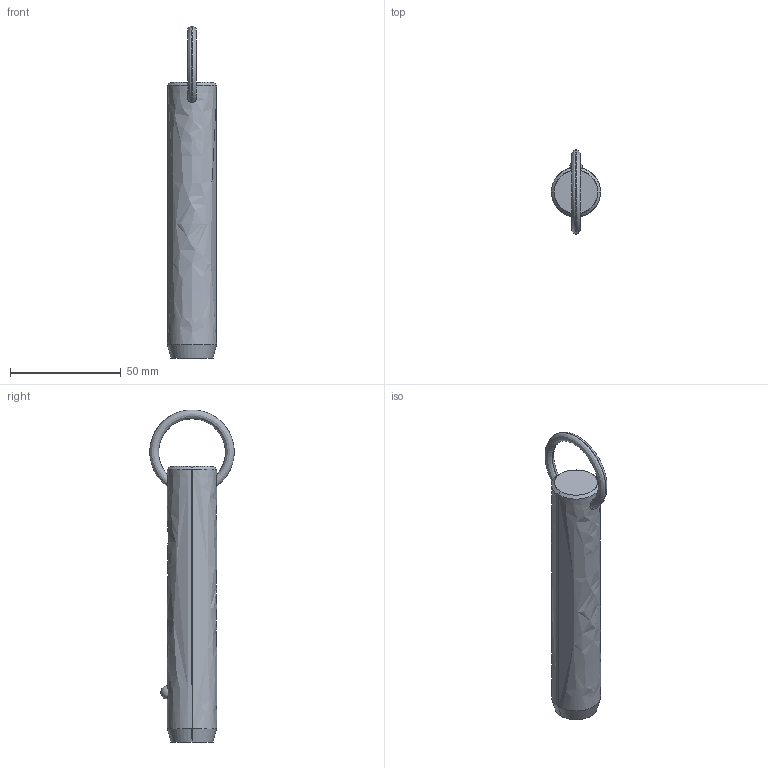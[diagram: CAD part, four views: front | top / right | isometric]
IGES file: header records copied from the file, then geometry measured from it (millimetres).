
Start section: SolidWorks IGES file using analytic representation for surfaces
Global section: file name: C:\Users\liam_\OneDrive\Documents\WORK\Work for WixRoyd\Job Files\J-00019 - Matt Davis CAD Checking\04. CAD Drawings\automotion20190605\P1250.2_v2\P1250.2_v2_20190729_IGES\P1250.087-340.igs; native system: SolidWorks 2017; preprocessor: SolidWorks 2017; author: liam_; date: 190730.000945; units: millimetre
Bounding box: 22.2 x 38.05 x 149.88 mm (x, y, z)
Surface area: 10326.8 mm2 (no closed solid volume)
Topology: 0 solids, 0 shells, 12 faces, 302 edges, 300 vertices
Faces by surface type: revolution 8, bspline 4
